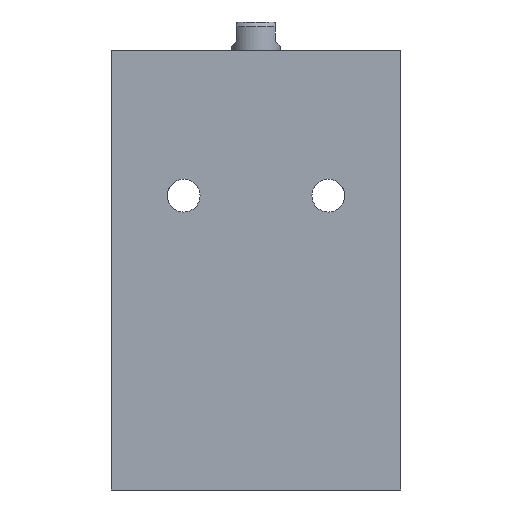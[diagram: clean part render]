
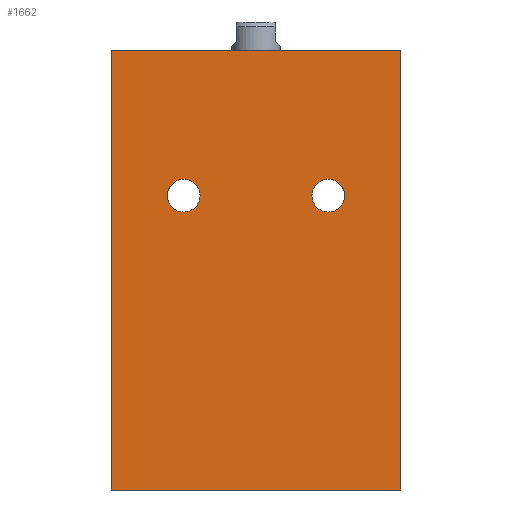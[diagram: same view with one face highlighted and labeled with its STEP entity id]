
A CAD part, front view. The second image highlights one B-rep face of the part: STEP entity #1662.
In plain terms, the highlighted planar face has unit normal (0, -1, 0).
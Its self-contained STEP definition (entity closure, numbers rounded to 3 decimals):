
#60 = CIRCLE ( 'NONE', #1981, 3.4 ) ;
#82 = CIRCLE ( 'NONE', #1947, 3.4 ) ;
#122 = CIRCLE ( 'NONE', #1982, 3.4 ) ;
#157 = LINE ( 'NONE', #576, #170 ) ;
#162 = LINE ( 'NONE', #1061, #181 ) ;
#170 = VECTOR ( 'NONE', #568, 1000. ) ;
#175 = VECTOR ( 'NONE', #1052, 1000. ) ;
#177 = LINE ( 'NONE', #1006, #183 ) ;
#179 = CIRCLE ( 'NONE', #1949, 3.4 ) ;
#181 = VECTOR ( 'NONE', #1057, 1000. ) ;
#183 = VECTOR ( 'NONE', #1019, 1000. ) ;
#235 = EDGE_LOOP ( 'NONE', ( #1189, #1188, #1187, #1186 ) ) ;
#491 = FACE_BOUND ( 'NONE', #502, .T. ) ;
#495 = FACE_BOUND ( 'NONE', #497, .T. ) ;
#497 = EDGE_LOOP ( 'NONE', ( #1193, #1192 ) ) ;
#502 = EDGE_LOOP ( 'NONE', ( #1191, #1190 ) ) ;
#538 = FACE_OUTER_BOUND ( 'NONE', #235, .T. ) ;
#546 = LINE ( 'NONE', #1031, #175 ) ;
#568 = DIRECTION ( 'NONE',  ( 0., 0., -1. ) ) ;
#576 = CARTESIAN_POINT ( 'NONE',  ( 30., -17.5, 91. ) ) ;
#645 = CARTESIAN_POINT ( 'NONE',  ( -15., -17.5, 57.6 ) ) ;
#649 = CARTESIAN_POINT ( 'NONE',  ( 15., -17.5, 64.4 ) ) ;
#650 = CARTESIAN_POINT ( 'NONE',  ( -15., -17.5, 64.4 ) ) ;
#651 = CARTESIAN_POINT ( 'NONE',  ( 15., -17.5, 57.6 ) ) ;
#674 = CARTESIAN_POINT ( 'NONE',  ( -30., -17.5, 0. ) ) ;
#675 = CARTESIAN_POINT ( 'NONE',  ( 30., -17.5, 91. ) ) ;
#677 = CARTESIAN_POINT ( 'NONE',  ( -30., -17.5, 91. ) ) ;
#680 = CARTESIAN_POINT ( 'NONE',  ( 30., -17.5, 0. ) ) ;
#844 = DIRECTION ( 'NONE',  ( 0., 0., 1. ) ) ;
#845 = DIRECTION ( 'NONE',  ( 0., 1., 0. ) ) ;
#849 = CARTESIAN_POINT ( 'NONE',  ( 15., -17.5, 61. ) ) ;
#894 = DIRECTION ( 'NONE',  ( 0., 0., 1. ) ) ;
#895 = DIRECTION ( 'NONE',  ( 0., 1., 0. ) ) ;
#896 = CARTESIAN_POINT ( 'NONE',  ( -15., -17.5, 61. ) ) ;
#984 = DIRECTION ( 'NONE',  ( 0., 1., 0. ) ) ;
#1006 = CARTESIAN_POINT ( 'NONE',  ( -30., -17.5, 91. ) ) ;
#1012 = DIRECTION ( 'NONE',  ( 0., 0., 1. ) ) ;
#1013 = CARTESIAN_POINT ( 'NONE',  ( -15., -17.5, 61. ) ) ;
#1019 = DIRECTION ( 'NONE',  ( 1., 0., 0. ) ) ;
#1031 = CARTESIAN_POINT ( 'NONE',  ( -30., -17.5, 0. ) ) ;
#1032 = DIRECTION ( 'NONE',  ( 0., 0., 1. ) ) ;
#1042 = DIRECTION ( 'NONE',  ( 0., 1., 0. ) ) ;
#1047 = CARTESIAN_POINT ( 'NONE',  ( 15., -17.5, 61. ) ) ;
#1052 = DIRECTION ( 'NONE',  ( 1., 0., 0. ) ) ;
#1057 = DIRECTION ( 'NONE',  ( 0., 0., -1. ) ) ;
#1061 = CARTESIAN_POINT ( 'NONE',  ( -30., -17.5, 91. ) ) ;
#1186 = ORIENTED_EDGE ( 'NONE', *, *, #1558, .T. ) ;
#1187 = ORIENTED_EDGE ( 'NONE', *, *, #1563, .F. ) ;
#1188 = ORIENTED_EDGE ( 'NONE', *, *, #1550, .F. ) ;
#1189 = ORIENTED_EDGE ( 'NONE', *, *, #1562, .T. ) ;
#1190 = ORIENTED_EDGE ( 'NONE', *, *, #1622, .T. ) ;
#1191 = ORIENTED_EDGE ( 'NONE', *, *, #1561, .T. ) ;
#1192 = ORIENTED_EDGE ( 'NONE', *, *, #1627, .T. ) ;
#1193 = ORIENTED_EDGE ( 'NONE', *, *, #1560, .T. ) ;
#1312 = VERTEX_POINT ( 'NONE', #680 ) ;
#1315 = VERTEX_POINT ( 'NONE', #677 ) ;
#1317 = VERTEX_POINT ( 'NONE', #675 ) ;
#1318 = VERTEX_POINT ( 'NONE', #674 ) ;
#1341 = VERTEX_POINT ( 'NONE', #651 ) ;
#1342 = VERTEX_POINT ( 'NONE', #650 ) ;
#1343 = VERTEX_POINT ( 'NONE', #649 ) ;
#1347 = VERTEX_POINT ( 'NONE', #645 ) ;
#1550 = EDGE_CURVE ( 'NONE', #1317, #1312, #157, .T. ) ;
#1558 = EDGE_CURVE ( 'NONE', #1315, #1318, #162, .T. ) ;
#1560 = EDGE_CURVE ( 'NONE', #1343, #1341, #122, .T. ) ;
#1561 = EDGE_CURVE ( 'NONE', #1342, #1347, #60, .T. ) ;
#1562 = EDGE_CURVE ( 'NONE', #1318, #1312, #546, .T. ) ;
#1563 = EDGE_CURVE ( 'NONE', #1315, #1317, #177, .T. ) ;
#1622 = EDGE_CURVE ( 'NONE', #1347, #1342, #179, .T. ) ;
#1627 = EDGE_CURVE ( 'NONE', #1341, #1343, #82, .T. ) ;
#1662 = ADVANCED_FACE ( 'NONE', ( #495, #491, #538 ), #2093, .F. ) ;
#1911 = AXIS2_PLACEMENT_3D ( 'NONE', #2096, #2106, #2091 ) ;
#1947 = AXIS2_PLACEMENT_3D ( 'NONE', #849, #845, #844 ) ;
#1949 = AXIS2_PLACEMENT_3D ( 'NONE', #896, #895, #894 ) ;
#1981 = AXIS2_PLACEMENT_3D ( 'NONE', #1013, #984, #1012 ) ;
#1982 = AXIS2_PLACEMENT_3D ( 'NONE', #1047, #1042, #1032 ) ;
#2091 = DIRECTION ( 'NONE',  ( 0., 0., 1. ) ) ;
#2093 = PLANE ( 'NONE',  #1911 ) ;
#2096 = CARTESIAN_POINT ( 'NONE',  ( -30., -17.5, 91. ) ) ;
#2106 = DIRECTION ( 'NONE',  ( 0., 1., 0. ) ) ;
